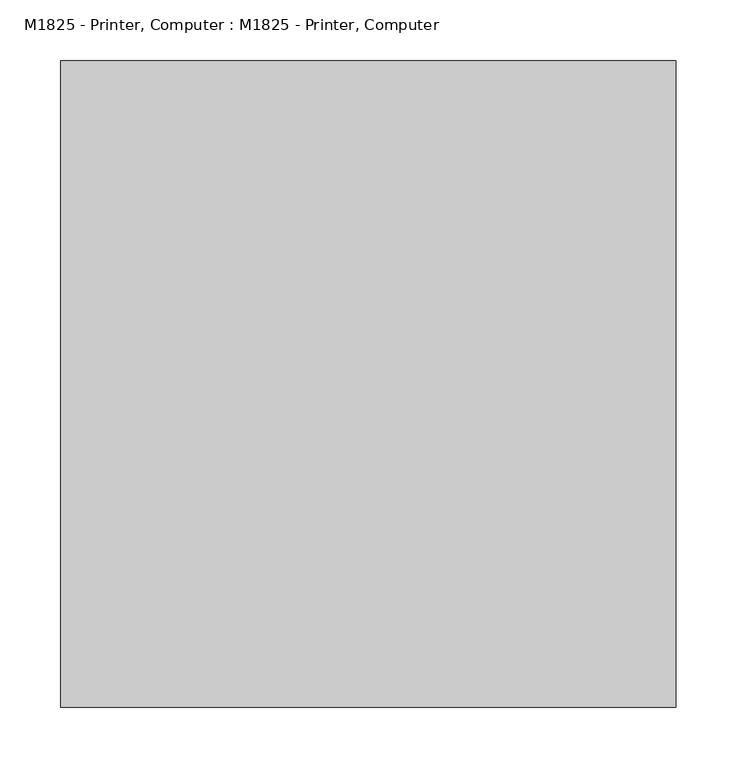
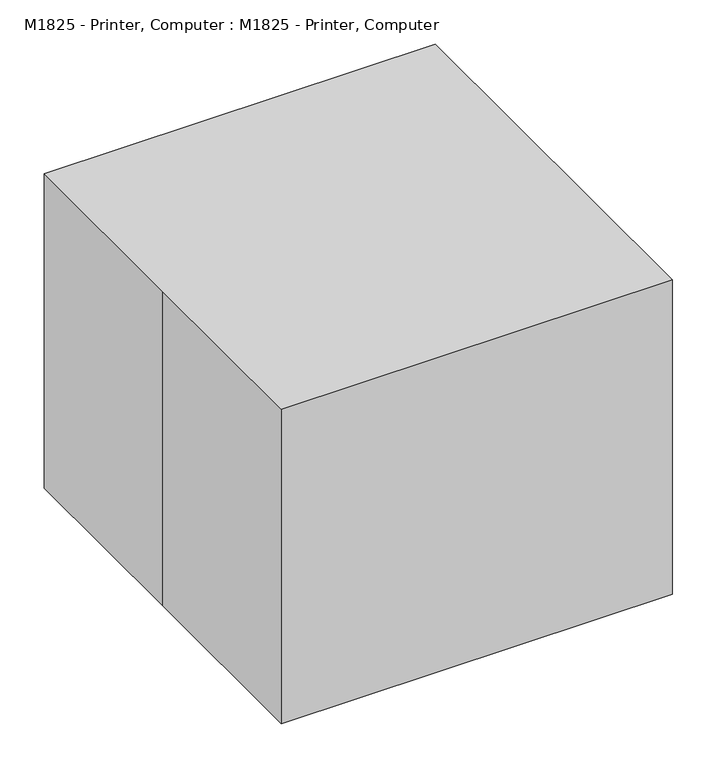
"""IFC4 building model written with IfcOpenShell, lengths in millimetres: proxy geometry, M1825 - Printer, Computer : M1825 - Printer, Computer."""

import ifcopenshell
import ifcopenshell.guid

model = None  # the IFC model being written
_history = None  # IfcOwnerHistory: only IFC2X3 demands one
_inside = {}  # id of a spatial element -> (the spatial element, [elements in it])
_under = {}  # id of a project, library or spatial element -> (it, [spatial elements below it])
_declared = {}  # id of a project -> (the project, [libraries it declares])
_typed = {}  # id of a type object -> (the type object, [elements of that type])
_made_of = {}  # id of a material, layer set ... -> (it, [elements and type objects made of it])


def new_model(schema):
    """Start an empty IFC model of exactly this schema.

    Asked for "IFC4X3", IfcOpenShell would pick the latest addendum, in which some entities
    have other attributes; the version numbers below select the first issue.
    IFC2X3 requires an IfcOwnerHistory on every rooted entity: one is made here for all.
    """
    global model, _history
    if schema == "IFC4X3":
        model = ifcopenshell.file(schema_version=(4, 3, 0, 0))
    else:
        model = ifcopenshell.file(schema=schema)
    _inside.clear()
    _under.clear()
    _declared.clear()
    _typed.clear()
    _made_of.clear()
    _history = None
    if model.schema == "IFC2X3":
        org = make("IfcOrganization", Name="unknown")
        user = make(
            "IfcPersonAndOrganization",
            ThePerson=make("IfcPerson", FamilyName="unknown"),
            TheOrganization=org,
        )
        app = make(
            "IfcApplication",
            ApplicationDeveloper=org,
            Version="unknown",
            ApplicationFullName="unknown",
            ApplicationIdentifier="unknown",
        )
        _history = make(
            "IfcOwnerHistory",
            OwningUser=user,
            OwningApplication=app,
            ChangeAction="ADDED",
            CreationDate=0,
        )
    return model


def make(cls, **values):
    """One entity of the class cls with the attributes given. An attribute that is None is left unset."""
    return model.create_entity(
        cls, **{name: value for name, value in values.items() if value is not None}
    )


def rooted(cls, **values):
    """An entity with a GlobalId (a new one), such as an element, a storey or a relation."""
    return make(cls, GlobalId=ifcopenshell.guid.new(), OwnerHistory=_history, **values)


def si_unit(unit_type, name, prefix=None):
    """IfcSIUnit, for example si_unit("LENGTHUNIT", "METRE", prefix="MILLI")."""
    return make("IfcSIUnit", UnitType=unit_type, Prefix=prefix, Name=name)


def assignment(units):
    """IfcUnitAssignment: the units of a project."""
    return None if units is None else make("IfcUnitAssignment", Units=units)


def point(xyz):
    """IfcCartesianPoint."""
    return None if xyz is None else make("IfcCartesianPoint", Coordinates=xyz)


def direction(xyz):
    """IfcDirection."""
    return None if xyz is None else make("IfcDirection", DirectionRatios=xyz)


def frame(location, z_axis=None, x_axis=None):
    """IfcAxis2Placement3D, a coordinate frame: its origin and axes. An axis left out is left unset."""
    return make(
        "IfcAxis2Placement3D",
        Location=point(location),
        Axis=direction(z_axis),
        RefDirection=direction(x_axis),
    )


def origin():
    """The frame at (0, 0, 0) with its axes left unset."""
    return frame((0.0, 0.0, 0.0))


def origin_with_axes():
    """The frame at (0, 0, 0) with the z axis (0, 0, 1) and the x axis (1, 0, 0) written out."""
    return frame((0.0, 0.0, 0.0), z_axis=(0.0, 0.0, 1.0), x_axis=(1.0, 0.0, 0.0))


def place(relative_to, where):
    """IfcLocalPlacement: puts the frame where relative to a parent placement (None: the world)."""
    return make(
        "IfcLocalPlacement", PlacementRelTo=relative_to, RelativePlacement=where
    )


def context(
    kind, dimensions, precision=None, world=None, true_north=None, identifier=None
):
    """IfcGeometricRepresentationContext, for example the 3D "Model" context."""
    return make(
        "IfcGeometricRepresentationContext",
        ContextIdentifier=identifier,
        ContextType=kind,
        CoordinateSpaceDimension=dimensions,
        Precision=precision,
        WorldCoordinateSystem=world,
        TrueNorth=true_north,
    )


def project(units=None, contexts=None):
    """IfcProject with its units and contexts."""
    return rooted(
        "IfcProject",
        Name="project",
        RepresentationContexts=contexts,
        UnitsInContext=assignment(units),
    )


def spatial(cls, under=None, at=None, **own):
    """A site, building, storey or space (cls), placed at a placement, below another one or the project."""
    s = rooted(cls, ObjectPlacement=at, **own)
    if under is not None:
        _under.setdefault(under.id(), (under, []))[1].append(s)
    return s


def polyline(points):
    """IfcPolyline through the points."""
    return make("IfcPolyline", Points=[point(p) for p in points])


def outline(outer, holes=None, kind="AREA"):
    """IfcArbitraryClosedProfileDef: a profile drawn as a closed curve; with holes, ...WithVoids."""
    if holes is None:
        return make("IfcArbitraryClosedProfileDef", ProfileType=kind, OuterCurve=outer)
    return make(
        "IfcArbitraryProfileDefWithVoids",
        ProfileType=kind,
        OuterCurve=outer,
        InnerCurves=holes,
    )


def extrude(swept, where, along, depth):
    """IfcExtrudedAreaSolid: the profile swept, set in the frame where, extruded along a direction by depth."""
    return make(
        "IfcExtrudedAreaSolid",
        SweptArea=swept,
        Position=where,
        ExtrudedDirection=direction(along),
        Depth=depth,
    )


def faces_of(points, faces, orient=None, outer=None):
    """IfcFace entities. A face is a list of loops; a loop is a list of indices into points, from 0.

    orient and outer hold one flag for each loop. By default every Orientation is true, the
    first loop of a face is its IfcFaceOuterBound and the others are IfcFaceBound.
    """
    made = []
    for i, loops in enumerate(faces):
        bounds = []
        for j, loop in enumerate(loops):
            is_outer = j == 0 if outer is None else outer[i][j]
            bounds.append(
                make(
                    "IfcFaceOuterBound" if is_outer else "IfcFaceBound",
                    Bound=make("IfcPolyLoop", Polygon=[points[k] for k in loop]),
                    Orientation=True if orient is None else orient[i][j],
                )
            )
        made.append(make("IfcFace", Bounds=bounds))
    return made


def faceted_brep(points, faces, orient=None, outer=None, voids=None):
    """IfcFacetedBrep: a solid bounded by flat faces; with voids (closed shells), ...WithVoids."""
    shared = [point(p) for p in points]
    hull = make("IfcClosedShell", CfsFaces=faces_of(shared, faces, orient, outer))
    if voids is None:
        return make("IfcFacetedBrep", Outer=hull)
    return make(
        "IfcFacetedBrepWithVoids",
        Outer=hull,
        Voids=[
            make(cls, CfsFaces=faces_of(shared, fs, o, b)) for cls, fs, o, b in voids
        ],
    )


def shape(context_of_items, identifier, shape_type, items):
    """IfcShapeRepresentation: the items that make up one representation, for example the "Body"."""
    return make(
        "IfcShapeRepresentation",
        ContextOfItems=context_of_items,
        RepresentationIdentifier=identifier,
        RepresentationType=shape_type,
        Items=items,
    )


def source(mapping_origin, context_of_items, identifier, shape_type, items):
    """IfcRepresentationMap: a shape defined once, which mapped items show again and again."""
    return make(
        "IfcRepresentationMap",
        MappingOrigin=mapping_origin,
        MappedRepresentation=shape(context_of_items, identifier, shape_type, items),
    )


def transform(
    local_origin,
    x_axis=None,
    y_axis=None,
    z_axis=None,
    scale=None,
    scale2=None,
    scale3=None,
    uniform=True,
):
    """IfcCartesianTransformationOperator3D, or its non-uniform kind. x_axis, y_axis, z_axis: its Axis1, 2, 3."""
    if uniform:
        return make(
            "IfcCartesianTransformationOperator3D",
            Axis1=direction(x_axis),
            Axis2=direction(y_axis),
            LocalOrigin=point(local_origin),
            Scale=scale,
            Axis3=direction(z_axis),
        )
    return make(
        "IfcCartesianTransformationOperator3DnonUniform",
        Axis1=direction(x_axis),
        Axis2=direction(y_axis),
        LocalOrigin=point(local_origin),
        Scale=scale,
        Axis3=direction(z_axis),
        Scale2=scale2,
        Scale3=scale3,
    )


def mapped(mapping_source, mapping_target):
    """IfcMappedItem: shows the shape of a source again, moved by a transform."""
    return make(
        "IfcMappedItem", MappingSource=mapping_source, MappingTarget=mapping_target
    )


def made_of(thing, what):
    """Note that an element or type object is made of a material, layer set ...; save() writes the relation."""
    if what is not None:
        _made_of.setdefault(what.id(), (what, []))[1].append(thing)
    return thing


def element(
    cls,
    number,
    at=None,
    inside=None,
    cuts=None,
    type_object=None,
    material=None,
    context=None,
    identifier="Body",
    shape_type=None,
    held_by="IfcProductDefinitionShape",
    body=None,
    shapes=None,
    **own,
):
    """One element of the class cls, such as IfcWall. Its Tag is "e" and its number.

    at: its placement. inside: the storey or other place that contains it. cuts: it is an
    opening in that element (IfcRelVoidsElement). A single representation is given by context,
    identifier, shape_type and body (its items); several are given by shapes. held_by: the class
    of the entity that holds the representations. save() writes the other relations.
    """
    e = rooted(cls, Tag="e%d" % number, ObjectPlacement=at, **own)
    if body is not None:
        shapes = [shape(context, identifier, shape_type, body)]
    if shapes is not None:
        e.Representation = make(held_by, Representations=shapes)
    if inside is not None:
        _inside.setdefault(inside.id(), (inside, []))[1].append(e)
    if cuts is not None:
        rooted(
            "IfcRelVoidsElement", RelatingBuildingElement=cuts, RelatedOpeningElement=e
        )
    if type_object is not None:
        _typed.setdefault(type_object.id(), (type_object, []))[1].append(e)
    return made_of(e, material)


def aggregate(whole, parts):
    """IfcRelAggregates: a whole, such as a stair, and the parts it consists of."""
    return rooted("IfcRelAggregates", RelatingObject=whole, RelatedObjects=parts)


def save(model, path):
    """Write the relations noted so far, then the file.

    IfcRelAggregates (storeys below a building ...), IfcRelContainedInSpatialStructure (elements
    in a storey), IfcRelDefinesByType, IfcRelAssociatesMaterial and IfcRelDeclares: one each for
    every whole, place, type object, material and project.
    """
    for whole, parts in _under.values():
        aggregate(whole, parts)
    for where, things in _inside.values():
        rooted(
            "IfcRelContainedInSpatialStructure",
            RelatedElements=things,
            RelatingStructure=where,
        )
    for kind, things in _typed.values():
        rooted("IfcRelDefinesByType", RelatedObjects=things, RelatingType=kind)
    for what, things in _made_of.values():
        rooted("IfcRelAssociatesMaterial", RelatedObjects=things, RelatingMaterial=what)
    for by, libraries in _declared.values():
        rooted("IfcRelDeclares", RelatingContext=by, RelatedDefinitions=libraries)
    model.write(path)


def m1825_printer_computer_m1825_printer_computer_25ab0afd(model_context):
    return source(origin(), model_context, "Body", "SolidModel", [
        faceted_brep([(215.9, -254.0, 355.6), (215.9, 177.2046875, 355.6), (0.0, 177.2046875, 355.6), (0.0, -254.0, 355.6), (-215.9, -254.0, 0.0), (-215.9, 177.2046875, 0.0), (215.9, 177.2046875, 0.0), (215.9, -254.0, 0.0), (0.0, -254.0, 322.8074523), (-215.9, -254.0, 322.8074523), (-215.9, -254.0, 177.8), (0.0, -254.0, 177.8), (0.0, -254.0, 82.2650526), (-215.9, -254.0, 120.700198), (-215.9, -195.4931114, 322.8074523), (-215.9, -195.4931114, 254.0), (-215.9, 129.5796875, 254.0), (-215.9, 129.5796875, 322.8074523), (-215.9, 177.2046875, 322.8074523), (-215.9, 177.2046875, 254.0), (-215.9, 254.0, 254.0), (-215.9, 254.0, 177.8), (-215.9, 177.2046875, 120.700198), (215.9, 254.0, 254.0), (215.9, 254.0, 177.8), (215.9, 177.2046875, 177.8), (215.9, 177.2046875, 254.0), (0.0, -195.4931114, 322.8074523), (0.0, 129.5796875, 322.8074523), (0.0, 177.2046875, 322.8074523), (0.0, 129.5796875, 254.0), (0.0, -195.4931114, 254.0), (0.0, 177.2046875, 177.8), (0.0, 177.2046875, 82.2650526)], [[[0, 1, 2, 3]], [[4, 5, 6, 7]], [[7, 0, 3, 8, 9, 10, 11, 12, 13, 4]], [[14, 15, 16, 17, 18, 19, 20, 21, 10, 9]], [[13, 22, 5, 4]], [[23, 24, 21, 20]], [[7, 6, 25, 24, 23, 26, 1, 0]], [[8, 27, 14, 9]], [[28, 29, 18, 17]], [[3, 2, 29, 28, 30, 31, 27, 8]], [[30, 28, 17, 16]], [[30, 16, 15, 31]], [[15, 14, 27, 31]], [[26, 23, 20, 19]], [[19, 18, 29, 2, 1, 26]], [[10, 21, 24, 25, 32, 11]], [[12, 33, 22, 13]], [[11, 32, 33, 12]], [[25, 6, 5, 22, 33, 32]]]),
        extrude(outline(polyline([(-254.0, -266.7), (-254.0, 0.0), (-254.0, 266.7), (254.0, 266.7), (254.0, -266.7), (-254.0, -266.7)])), origin_with_axes(), (0.0, 0.0, 1.0), 431.8),
    ])


if __name__ == "__main__":
    model = new_model("IFC4")
    model_context = context("Model", 3, world=origin())
    ifc_project = project(units=[si_unit("LENGTHUNIT", "METRE", prefix="MILLI")], contexts=[model_context])
    site = spatial("IfcSite", under=ifc_project)
    building = spatial("IfcBuilding", under=site)
    placement = place(None, origin())
    m1825_printer_computer_m1825_printer_computer_shape = m1825_printer_computer_m1825_printer_computer_25ab0afd(model_context)
    element("IfcBuildingElementProxy", 1, Name="M1825 - Printer, Computer : M1825 - Printer, Computer", ObjectType="M1825 - Printer, Computer : M1825 - Printer, Computer", at=placement, inside=building, context=model_context, shape_type="MappedRepresentation", body=[
        mapped(m1825_printer_computer_m1825_printer_computer_shape, transform((0.0, 0.0, 0.0), x_axis=(1.0, 0.0, 0.0), y_axis=(0.0, 1.0, 0.0), z_axis=(0.0, 0.0, 1.0))),
    ])
    save(model, "model.ifc")
